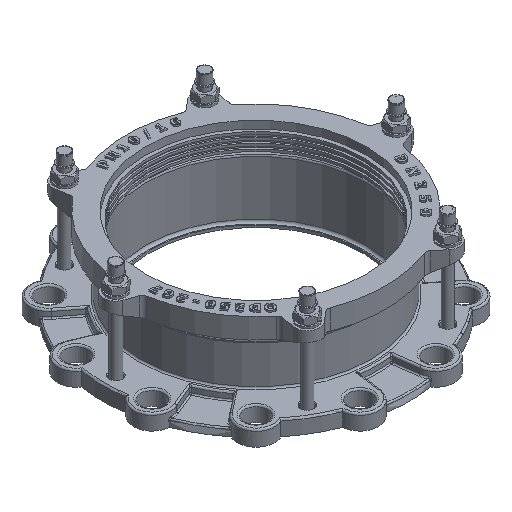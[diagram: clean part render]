
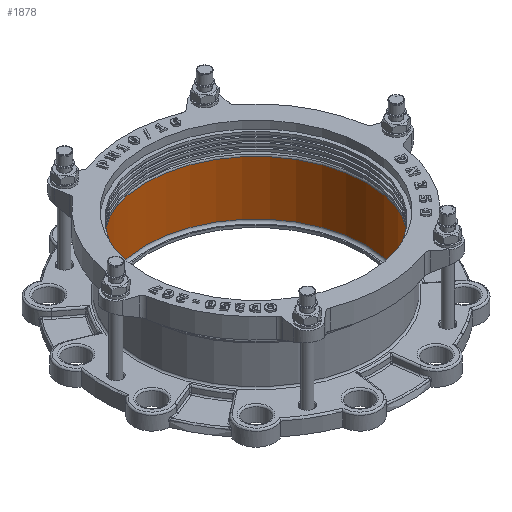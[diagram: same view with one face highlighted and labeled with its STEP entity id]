
A CAD part, isometric view. The second image highlights one B-rep face of the part: STEP entity #1878.
In plain terms, the highlighted cylindrical face has radius 133.5 mm (diameter 267 mm), a full revolution.
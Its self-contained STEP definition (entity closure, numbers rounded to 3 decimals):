
#1878=ADVANCED_FACE('',(#12861,#12863),#12865,.F.);
#12861=FACE_OUTER_BOUND('',#12862,.T.);
#12862=EDGE_LOOP('',(#19024));
#12863=FACE_OUTER_BOUND('',#12864,.T.);
#12864=EDGE_LOOP('',(#19025));
#12865=CYLINDRICAL_SURFACE('',#12866,133.5);
#12866=AXIS2_PLACEMENT_3D('',#12867,#12868,#12869);
#12867=CARTESIAN_POINT('',(0.,0.,3.));
#12868=DIRECTION('',(0.,0.,1.));
#12869=DIRECTION('',(-1.,0.,0.));
#19024=ORIENTED_EDGE('',*,*,#24104,.F.);
#19025=ORIENTED_EDGE('',*,*,#24106,.T.);
#24104=EDGE_CURVE('',#27249,#27249,#27250,.T.);
#24106=EDGE_CURVE('',#27253,#27253,#27254,.F.);
#27249=VERTEX_POINT('',#38546);
#27250=CIRCLE('',#38547,133.5);
#27253=VERTEX_POINT('',#38556);
#27254=CIRCLE('',#38557,133.5);
#38546=CARTESIAN_POINT('',(0.,133.5,71.5));
#38547=AXIS2_PLACEMENT_3D('',#38548,#38549,#38550);
#38548=CARTESIAN_POINT('',(0.,0.,71.5));
#38549=DIRECTION('',(0.,0.,-1.));
#38550=DIRECTION('',(0.,1.,0.));
#38556=CARTESIAN_POINT('',(0.,133.5,6.));
#38557=AXIS2_PLACEMENT_3D('',#38558,#38559,#38560);
#38558=CARTESIAN_POINT('',(0.,0.,6.));
#38559=DIRECTION('',(0.,0.,1.));
#38560=DIRECTION('',(0.,1.,0.));
